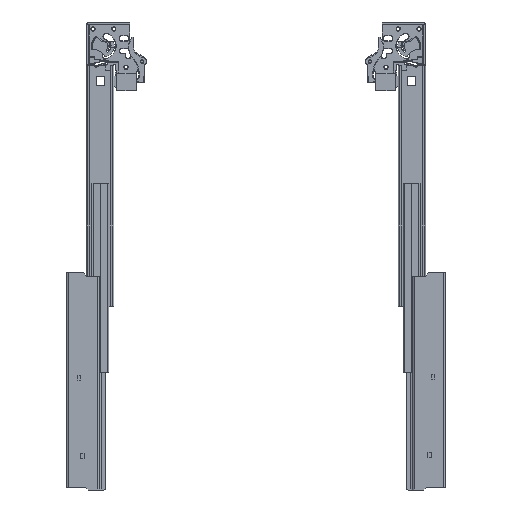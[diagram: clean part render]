
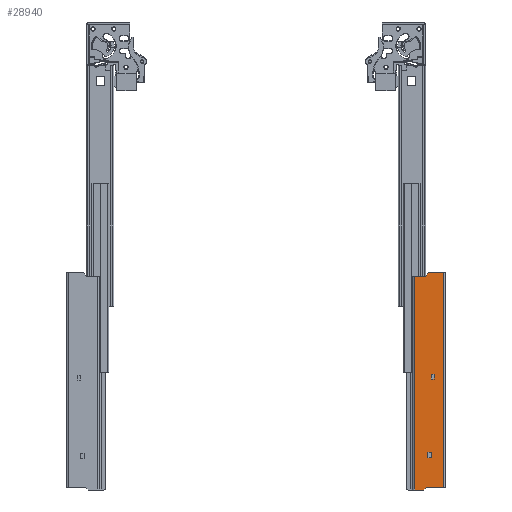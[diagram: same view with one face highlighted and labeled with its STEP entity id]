
A CAD part, front view. The second image highlights one B-rep face of the part: STEP entity #28940.
In plain terms, the highlighted planar face has unit normal (0, -1, 0).
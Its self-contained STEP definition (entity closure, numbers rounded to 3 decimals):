
#865=FACE_BOUND('',#5995,.T.);
#866=FACE_BOUND('',#5996,.T.);
#1943=CIRCLE('',#30927,2.);
#1944=CIRCLE('',#30928,2.);
#4074=FACE_OUTER_BOUND('',#5994,.T.);
#5994=EDGE_LOOP('',(#18857,#18858,#18859,#18860,#18861,#18862,#18863,#18864,
#18865,#18866));
#5995=EDGE_LOOP('',(#18867,#18868,#18869,#18870));
#5996=EDGE_LOOP('',(#18871,#18872,#18873,#18874));
#8056=LINE('',#45061,#9976);
#8060=LINE('',#45069,#9980);
#8063=LINE('',#45075,#9983);
#8066=LINE('',#45080,#9986);
#8068=LINE('',#45086,#9988);
#8072=LINE('',#45094,#9992);
#8075=LINE('',#45100,#9995);
#8078=LINE('',#45105,#9998);
#8080=LINE('',#45111,#10000);
#8085=LINE('',#45125,#10005);
#8103=LINE('',#45180,#10023);
#8104=LINE('',#45183,#10024);
#8105=LINE('',#45187,#10025);
#8106=LINE('',#45191,#10026);
#8107=LINE('',#45193,#10027);
#8108=LINE('',#45194,#10028);
#9976=VECTOR('',#35221,5.);
#9980=VECTOR('',#35227,3.);
#9983=VECTOR('',#35232,5.);
#9986=VECTOR('',#35237,3.);
#9988=VECTOR('',#35243,6.);
#9992=VECTOR('',#35249,3.5);
#9995=VECTOR('',#35254,6.);
#9998=VECTOR('',#35259,3.5);
#10000=VECTOR('',#35265,4.243);
#10005=VECTOR('',#35276,18.);
#10023=VECTOR('',#35322,227.);
#10024=VECTOR('',#35325,14.172);
#10025=VECTOR('',#35328,5.414);
#10026=VECTOR('',#35331,9.672);
#10027=VECTOR('',#35332,225.);
#10028=VECTOR('',#35333,9.5);
#11929=VERTEX_POINT('',#45059);
#11930=VERTEX_POINT('',#45060);
#11933=VERTEX_POINT('',#45068);
#11935=VERTEX_POINT('',#45074);
#11937=VERTEX_POINT('',#45084);
#11938=VERTEX_POINT('',#45085);
#11941=VERTEX_POINT('',#45093);
#11943=VERTEX_POINT('',#45099);
#11945=VERTEX_POINT('',#45109);
#11946=VERTEX_POINT('',#45110);
#11952=VERTEX_POINT('',#45123);
#11975=VERTEX_POINT('',#45178);
#11976=VERTEX_POINT('',#45182);
#11977=VERTEX_POINT('',#45184);
#11978=VERTEX_POINT('',#45186);
#11979=VERTEX_POINT('',#45188);
#11980=VERTEX_POINT('',#45190);
#11981=VERTEX_POINT('',#45192);
#14412=EDGE_CURVE('',#11929,#11930,#8056,.T.);
#14416=EDGE_CURVE('',#11930,#11933,#8060,.T.);
#14419=EDGE_CURVE('',#11933,#11935,#8063,.T.);
#14422=EDGE_CURVE('',#11935,#11929,#8066,.T.);
#14424=EDGE_CURVE('',#11937,#11938,#8068,.T.);
#14428=EDGE_CURVE('',#11938,#11941,#8072,.T.);
#14431=EDGE_CURVE('',#11941,#11943,#8075,.T.);
#14434=EDGE_CURVE('',#11943,#11937,#8078,.T.);
#14436=EDGE_CURVE('',#11945,#11946,#8080,.T.);
#14443=EDGE_CURVE('',#11952,#11945,#8085,.T.);
#14471=EDGE_CURVE('',#11975,#11952,#8103,.T.);
#14472=EDGE_CURVE('',#11975,#11976,#8104,.T.);
#14473=EDGE_CURVE('',#11976,#11977,#1943,.T.);
#14474=EDGE_CURVE('',#11978,#11977,#8105,.T.);
#14475=EDGE_CURVE('',#11978,#11979,#1944,.T.);
#14476=EDGE_CURVE('',#11980,#11979,#8106,.T.);
#14477=EDGE_CURVE('',#11980,#11981,#8107,.T.);
#14478=EDGE_CURVE('',#11981,#11946,#8108,.T.);
#18857=ORIENTED_EDGE('',*,*,#14443,.F.);
#18858=ORIENTED_EDGE('',*,*,#14471,.F.);
#18859=ORIENTED_EDGE('',*,*,#14472,.T.);
#18860=ORIENTED_EDGE('',*,*,#14473,.T.);
#18861=ORIENTED_EDGE('',*,*,#14474,.F.);
#18862=ORIENTED_EDGE('',*,*,#14475,.T.);
#18863=ORIENTED_EDGE('',*,*,#14476,.F.);
#18864=ORIENTED_EDGE('',*,*,#14477,.T.);
#18865=ORIENTED_EDGE('',*,*,#14478,.T.);
#18866=ORIENTED_EDGE('',*,*,#14436,.F.);
#18867=ORIENTED_EDGE('',*,*,#14412,.T.);
#18868=ORIENTED_EDGE('',*,*,#14416,.T.);
#18869=ORIENTED_EDGE('',*,*,#14419,.T.);
#18870=ORIENTED_EDGE('',*,*,#14422,.T.);
#18871=ORIENTED_EDGE('',*,*,#14424,.T.);
#18872=ORIENTED_EDGE('',*,*,#14428,.T.);
#18873=ORIENTED_EDGE('',*,*,#14431,.T.);
#18874=ORIENTED_EDGE('',*,*,#14434,.T.);
#26585=PLANE('',#30926);
#28940=ADVANCED_FACE('',(#4074,#865,#866),#26585,.F.);
#30926=AXIS2_PLACEMENT_3D('',#45181,#35323,#35324);
#30927=AXIS2_PLACEMENT_3D('',#45185,#35326,#35327);
#30928=AXIS2_PLACEMENT_3D('',#45189,#35329,#35330);
#35221=DIRECTION('',(0.,0.,1.));
#35227=DIRECTION('',(1.,0.,0.));
#35232=DIRECTION('',(0.,0.,-1.));
#35237=DIRECTION('',(-1.,0.,0.));
#35243=DIRECTION('',(0.,0.,1.));
#35249=DIRECTION('',(1.,0.,0.));
#35254=DIRECTION('',(0.,0.,-1.));
#35259=DIRECTION('',(-1.,0.,0.));
#35265=DIRECTION('',(-0.707,0.,-0.707));
#35276=DIRECTION('',(-1.,0.,0.));
#35322=DIRECTION('',(0.,0.,-1.));
#35323=DIRECTION('center_axis',(0.,1.,0.));
#35324=DIRECTION('ref_axis',(1.,0.,0.));
#35325=DIRECTION('',(-1.,0.,0.));
#35326=DIRECTION('center_axis',(0.,-1.,0.));
#35327=DIRECTION('ref_axis',(-0.383,0.,0.924));
#35328=DIRECTION('',(0.707,0.,0.707));
#35329=DIRECTION('center_axis',(0.,1.,0.));
#35330=DIRECTION('ref_axis',(0.383,0.,-0.924));
#35331=DIRECTION('',(1.,0.,0.));
#35332=DIRECTION('',(0.,0.,-1.));
#35333=DIRECTION('',(1.,0.,0.));
#45059=CARTESIAN_POINT('',(-15.,0.,-113.));
#45060=CARTESIAN_POINT('',(-15.,0.,-108.));
#45061=CARTESIAN_POINT('',(-15.,0.,-54.));
#45068=CARTESIAN_POINT('',(-12.,0.,-108.));
#45069=CARTESIAN_POINT('',(-22.25,0.,-108.));
#45074=CARTESIAN_POINT('',(-12.,0.,-113.));
#45075=CARTESIAN_POINT('',(-12.,0.,-56.5));
#45080=CARTESIAN_POINT('',(-23.75,0.,-113.));
#45084=CARTESIAN_POINT('',(-18.5,0.,-196.));
#45085=CARTESIAN_POINT('',(-18.5,0.,-190.));
#45086=CARTESIAN_POINT('',(-18.5,0.,-95.));
#45093=CARTESIAN_POINT('',(-15.,0.,-190.));
#45094=CARTESIAN_POINT('',(-23.75,0.,-190.));
#45099=CARTESIAN_POINT('',(-15.,0.,-196.));
#45100=CARTESIAN_POINT('',(-15.,0.,-98.));
#45105=CARTESIAN_POINT('',(-25.5,0.,-196.));
#45109=CARTESIAN_POINT('',(-20.,0.,-227.));
#45110=CARTESIAN_POINT('',(-23.,0.,-230.));
#45111=CARTESIAN_POINT('',(33.625,0.,-173.375));
#45123=CARTESIAN_POINT('',(-2.,0.,-227.));
#45125=CARTESIAN_POINT('',(-16.25,0.,-227.));
#45178=CARTESIAN_POINT('',(-2.,0.,0.));
#45180=CARTESIAN_POINT('',(-2.,0.,0.));
#45181=CARTESIAN_POINT('Origin',(-32.5,0.,0.));
#45182=CARTESIAN_POINT('',(-16.172,0.,0.));
#45183=CARTESIAN_POINT('',(-2.,0.,0.));
#45184=CARTESIAN_POINT('',(-17.586,0.,-0.586));
#45185=CARTESIAN_POINT('Origin',(-16.172,0.,
-2.));
#45186=CARTESIAN_POINT('',(-21.414,0.,-4.414));
#45187=CARTESIAN_POINT('',(-23.375,0.,-6.375));
#45188=CARTESIAN_POINT('',(-22.828,0.,-5.));
#45189=CARTESIAN_POINT('Origin',(-22.828,0.,
-3.));
#45190=CARTESIAN_POINT('',(-32.5,0.,-5.));
#45191=CARTESIAN_POINT('',(-35.75,0.,-5.));
#45192=CARTESIAN_POINT('',(-32.5,0.,-230.));
#45193=CARTESIAN_POINT('',(-32.5,0.,0.));
#45194=CARTESIAN_POINT('',(-2.,0.,-230.));
